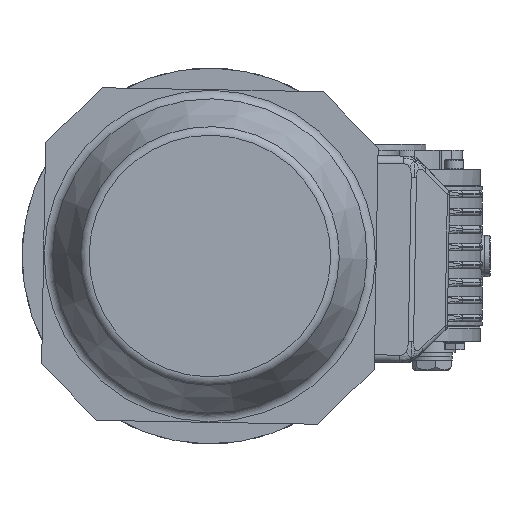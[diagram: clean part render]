
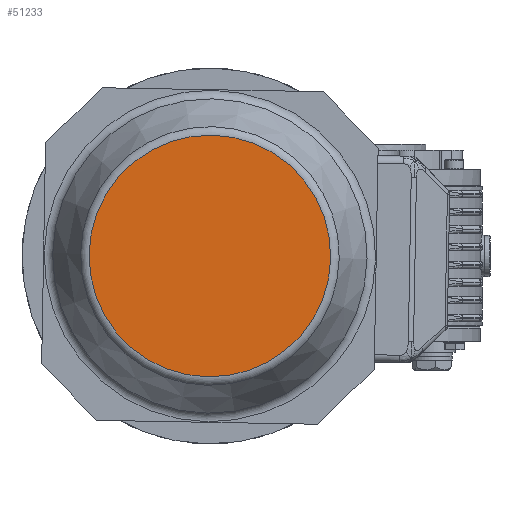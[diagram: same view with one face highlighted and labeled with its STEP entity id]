
A CAD part, left-side view. The second image highlights one B-rep face of the part: STEP entity #51233.
In plain terms, the highlighted planar face has unit normal (-1, 0, 0) as drawn and (1, 0, 0) by its records, which use the part's own axes.
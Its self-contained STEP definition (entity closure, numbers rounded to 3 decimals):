
#51210=CARTESIAN_POINT('',(308.,0.0,64.298));
#51211=VERTEX_POINT('',#51210);
#51212=CARTESIAN_POINT('',(308.0,0.0,0.));
#51213=DIRECTION('',(-1.0,0.0,0.0));
#51214=DIRECTION('',(0.0,0.0,-1.0));
#51215=AXIS2_PLACEMENT_3D('',#51212,#51213,#51214);
#51216=CIRCLE('',#51215,64.298);
#51217=EDGE_CURVE('',#51211,#51211,#51216,.T.);
#51225=CARTESIAN_POINT('',(308.0,0.0,33.75));
#51226=DIRECTION('',(1.0,0.0,0.0));
#51227=DIRECTION('',(0.0,0.0,-1.0));
#51228=AXIS2_PLACEMENT_3D('',#51225,#51226,#51227);
#51229=PLANE('',#51228);
#51230=ORIENTED_EDGE('',*,*,#51217,.F.);
#51231=EDGE_LOOP('',(#51230));
#51232=FACE_OUTER_BOUND('',#51231,.T.);
#51233=ADVANCED_FACE('',(#51232),#51229,.T.);
